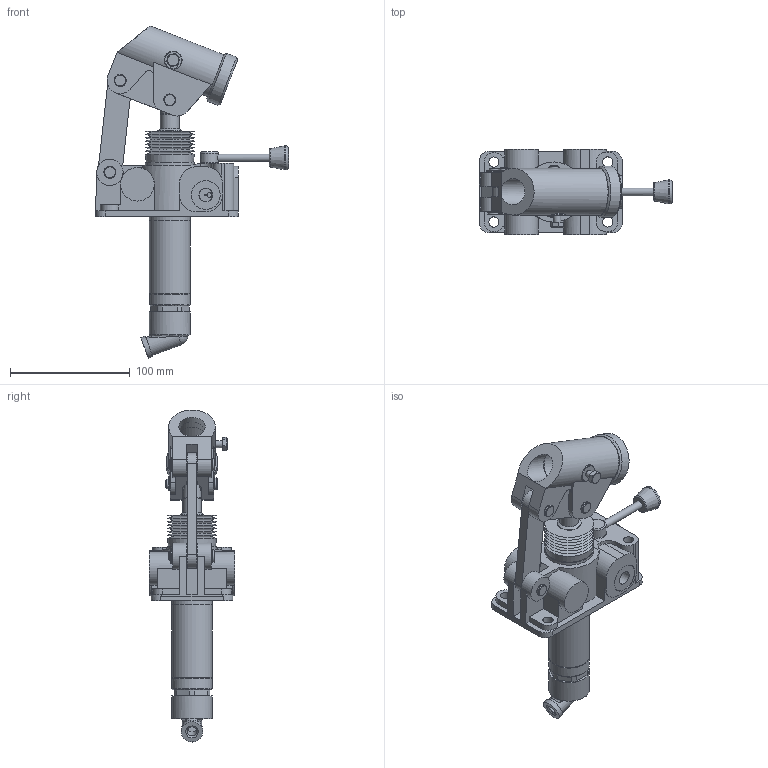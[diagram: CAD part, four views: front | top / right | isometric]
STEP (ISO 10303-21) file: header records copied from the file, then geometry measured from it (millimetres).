
FILE_DESCRIPTION(/* description */ ('Unknown'),/* implementation_level */ '2;1');
FILE_NAME(/* name */ 'HPTD-S',/* time_stamp */ '2024-11-28T13:41:33+01:00',/* author */ ('Unknown'),/* organization */ ('Unknown'),/* preprocessor_version */ 'ST-DEVELOPER v19.4',/* originating_system */ 'Solid Edge',/* authorisation */ 'Unknown');
FILE_SCHEMA (('AUTOMOTIVE_DESIGN {1 0 10303 214 3 1 1}'));
Length unit declared in the file: millimetre
Products named in the file (1): HPTD-S
Bounding box: 161 x 71 x 276.94 mm (x, y, z)
Volume: 492388.1 mm3; surface area: 130379.7 mm2
Topology: 9 solids, 9 shells, 2187 faces, 6024 edges, 3896 vertices
Faces by surface type: plane 1811, cylinder 258, cone 67, torus 33, bspline 15, sphere 3
Full cylindrical faces by diameter (mm): 4 x2, 5 x5, 5.1 x2, 5.994 x5, 6.2 x1, 7.792 x6, 7.992 x2, 8 x5, 8.092 x4, 8.1 x1, 8.376 x2, 8.5 x4, 9.99 x3, 10 x2, 11 x5, 11.445 x4, 15 x1, 15.3 x1, 15.8 x1, 16 x3, 17 x2, 18 x1, 20 x3, 21.978 x1, 22 x2, 23 x2, 24 x2, 25 x3, 25.3 x1, 25.376 x1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
Entity records: 83660 total; most frequent: CARTESIAN_POINT 13667, ORIENTED_EDGE 11502, DIRECTION 10901, EDGE_CURVE 5751, LINE 4755, VECTOR 4755, VERTEX_POINT 3810, AXIS2_PLACEMENT_3D 3073
